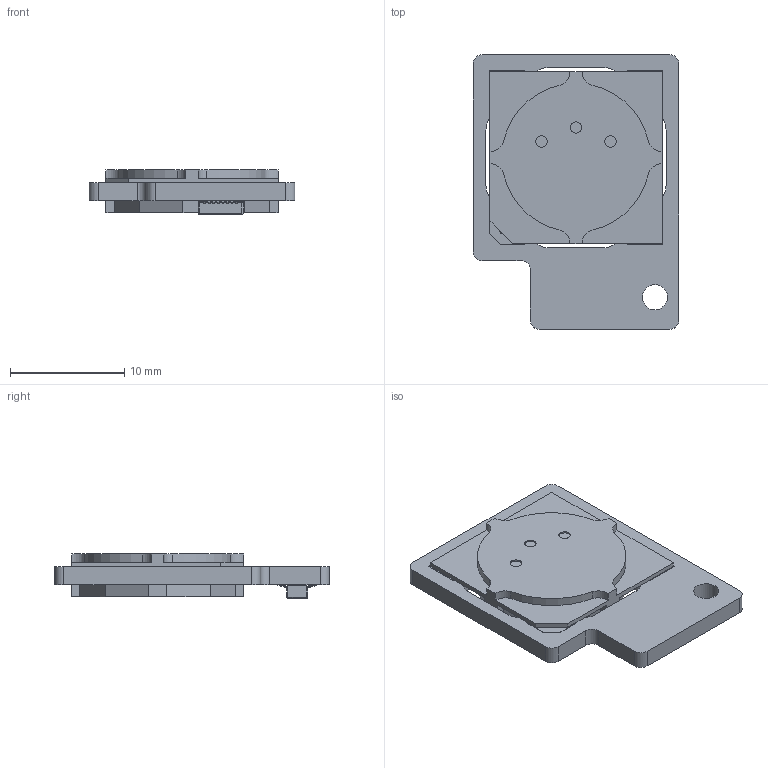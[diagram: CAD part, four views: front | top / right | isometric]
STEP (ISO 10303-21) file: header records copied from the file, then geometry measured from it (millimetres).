
FILE_DESCRIPTION (( 'STEP AP214' ), '1' );
FILE_NAME ('895-500.STEP', '2026-08-14T00:29:37', ( '' ), ( '' ), 'SwSTEP 2.0', 'SolidWorks 2020', '' );
FILE_SCHEMA (( 'AUTOMOTIVE_DESIGN' ));
Length unit declared in the file: millimetre
Products named in the file (5): DGS415 base board with connector; DGS415 base board; DF40C-12DP; Bare sensor NO2; 895-500
Assembly tree (4 placements, depth 3):
  895-500
    DGS415 base board with connector
      DGS415 base board
      DF40C-12DP
    Bare sensor NO2
Bounding box: 18 x 24 x 3.85 mm (x, y, z)
Volume: 868.3 mm3; surface area: 1338.9 mm2
Topology: 3 solids, 3 shells, 374 faces, 1064 edges, 708 vertices
Faces by surface type: plane 250, cylinder 124
Full cylindrical faces by diameter (mm): 0.495 x11, 0.496 x1, 0.66 x4, 1 x3, 2.2 x1
Entity records: 13268 total; most frequent: CARTESIAN_POINT 2294, ORIENTED_EDGE 2088, DIRECTION 2040, EDGE_CURVE 1044, LINE 796, VECTOR 796, VERTEX_POINT 708, AXIS2_PLACEMENT_3D 622
